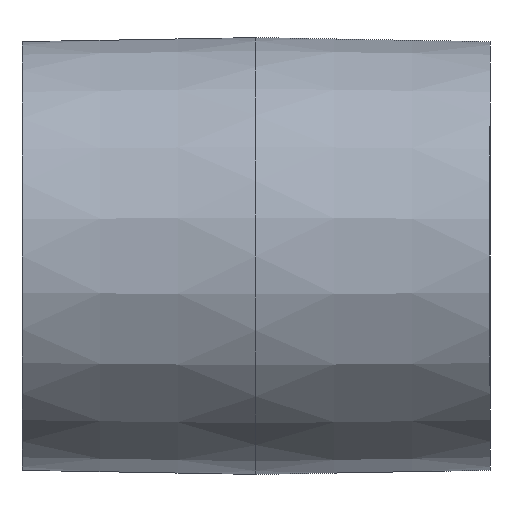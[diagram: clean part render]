
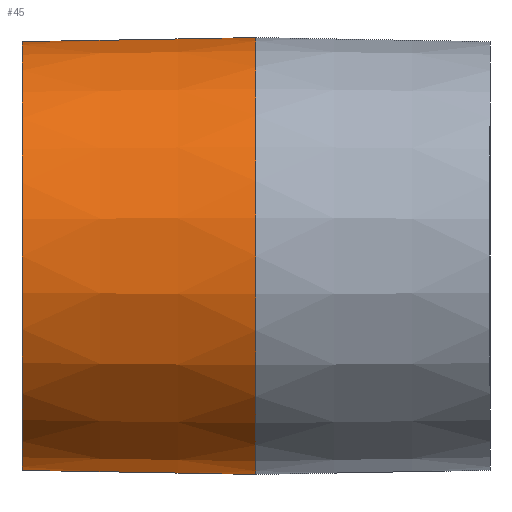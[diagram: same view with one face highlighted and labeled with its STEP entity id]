
A CAD part, left-side view. The second image highlights one B-rep face of the part: STEP entity #45.
In plain terms, the highlighted conical face has half-angle 1 degrees and reference radius 6.869 mm.
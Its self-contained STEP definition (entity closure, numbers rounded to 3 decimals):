
#45=ADVANCED_FACE('',(#104,#105),#106,.T.);
#104=FACE_OUTER_BOUND('',#193,.T.);
#105=FACE_BOUND('',#194,.T.);
#106=CONICAL_SURFACE('',#195,6.869,0.017);
#193=EDGE_LOOP('',(#276,#277));
#194=EDGE_LOOP('',(#278));
#195=AXIS2_PLACEMENT_3D('',#279,#280,#281);
#276=ORIENTED_EDGE('',*,*,#406,.T.);
#277=ORIENTED_EDGE('',*,*,#407,.F.);
#278=ORIENTED_EDGE('',*,*,#408,.T.);
#279=CARTESIAN_POINT('',(0.0,7.5,0.0));
#280=DIRECTION('',(0.0,-1.0,-0.0));
#281=DIRECTION('',(0.0,0.0,-1.0));
#406=EDGE_CURVE('',#450,#451,#452,.T.);
#407=EDGE_CURVE('',#450,#451,#453,.T.);
#408=EDGE_CURVE('',#454,#454,#455,.T.);
#450=VERTEX_POINT('',#515);
#451=VERTEX_POINT('',#516);
#452=B_SPLINE_CURVE_WITH_KNOTS('',3,(#517,#518,#519,#520,#521,#522,#523,#524,#525,#526,#527,#528,#529,#530,#531,#532,#533,#534,#535,#536,#537,#538,#539,#540,#541,#542,#543,#544,#545,#546,#547,#548,#549,#550,#551,#552,#553,#554,#555,#556,#557,#558),.UNSPECIFIED.,.F.,.F.,(4,2,2,2,2,2,2,2,2,2,2,2,2,2,2,2,2,2,2,2,4),(0.,0.001,0.002,0.002,0.003,0.004,0.005,0.006,0.007,0.007,0.008,0.008,0.009,0.01,0.011,0.012,0.013,0.014,0.014,0.015,0.016),.UNSPECIFIED.);
#453=CIRCLE('',#559,7.0);
#454=VERTEX_POINT('',#560);
#455=CIRCLE('',#561,6.869);
#515=CARTESIAN_POINT('',(4.899,0.,5.0));
#516=CARTESIAN_POINT('',(4.899,0.,-5.0));
#517=CARTESIAN_POINT('',(4.899,0.,5.0));
#518=CARTESIAN_POINT('',(4.89,0.344,5.0));
#519=CARTESIAN_POINT('',(4.918,0.679,4.965));
#520=CARTESIAN_POINT('',(5.006,1.169,4.864));
#521=CARTESIAN_POINT('',(5.042,1.332,4.822));
#522=CARTESIAN_POINT('',(5.127,1.648,4.724));
#523=CARTESIAN_POINT('',(5.175,1.801,4.667));
#524=CARTESIAN_POINT('',(5.331,2.247,4.478));
#525=CARTESIAN_POINT('',(5.453,2.53,4.324));
#526=CARTESIAN_POINT('',(5.704,3.055,3.971));
#527=CARTESIAN_POINT('',(5.834,3.297,3.772));
#528=CARTESIAN_POINT('',(6.089,3.745,3.328));
#529=CARTESIAN_POINT('',(6.215,3.95,3.082));
#530=CARTESIAN_POINT('',(6.442,4.309,2.557));
#531=CARTESIAN_POINT('',(6.545,4.464,2.276));
#532=CARTESIAN_POINT('',(6.676,4.659,1.823));
#533=CARTESIAN_POINT('',(6.716,4.717,1.666));
#534=CARTESIAN_POINT('',(6.785,4.818,1.347));
#535=CARTESIAN_POINT('',(6.815,4.86,1.186));
#536=CARTESIAN_POINT('',(6.863,4.929,0.857));
#537=CARTESIAN_POINT('',(6.881,4.955,0.691));
#538=CARTESIAN_POINT('',(6.906,4.991,0.352));
#539=CARTESIAN_POINT('',(6.912,5.,0.179));
#540=CARTESIAN_POINT('',(6.913,5.001,-0.331));
#541=CARTESIAN_POINT('',(6.889,4.967,-0.667));
#542=CARTESIAN_POINT('',(6.794,4.831,-1.332));
#543=CARTESIAN_POINT('',(6.725,4.731,-1.651));
#544=CARTESIAN_POINT('',(6.551,4.474,-2.257));
#545=CARTESIAN_POINT('',(6.446,4.315,-2.546));
#546=CARTESIAN_POINT('',(6.218,3.955,-3.075));
#547=CARTESIAN_POINT('',(6.094,3.752,-3.32));
#548=CARTESIAN_POINT('',(5.837,3.303,-3.767));
#549=CARTESIAN_POINT('',(5.707,3.06,-3.967));
#550=CARTESIAN_POINT('',(5.519,2.669,-4.231));
#551=CARTESIAN_POINT('',(5.458,2.534,-4.313));
#552=CARTESIAN_POINT('',(5.339,2.253,-4.467));
#553=CARTESIAN_POINT('',(5.282,2.107,-4.538));
#554=CARTESIAN_POINT('',(5.125,1.659,-4.728));
#555=CARTESIAN_POINT('',(5.038,1.346,-4.827));
#556=CARTESIAN_POINT('',(4.919,0.685,-4.964));
#557=CARTESIAN_POINT('',(4.89,0.344,-5.0));
#558=CARTESIAN_POINT('',(4.899,0.,-5.0));
#559=AXIS2_PLACEMENT_3D('',#723,#724,#725);
#560=CARTESIAN_POINT('',(0.0,7.5,-6.869));
#561=AXIS2_PLACEMENT_3D('',#726,#727,#728);
#723=CARTESIAN_POINT('',(0.0,0.,0.0));
#724=DIRECTION('',(0.0,-1.0,0.0));
#725=DIRECTION('',(0.0,0.0,-1.0));
#726=CARTESIAN_POINT('',(0.0,7.5,0.0));
#727=DIRECTION('',(0.0,-1.0,0.0));
#728=DIRECTION('',(0.0,0.0,-1.0));
